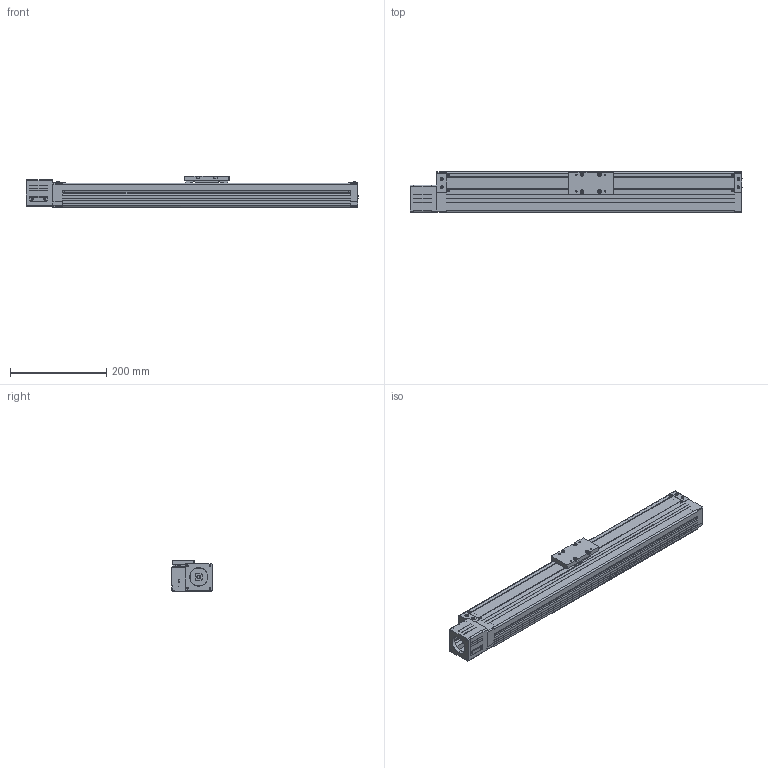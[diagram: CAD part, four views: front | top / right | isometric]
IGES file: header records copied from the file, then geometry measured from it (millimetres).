
Global section: file name: No Iges File Name specified; native system: AutoDesk Inventor R10; preprocessor: AutoDesk Inventor Iges Exporter R10; author: No Author specified; organization: No Organization specified; date: 20110701.172417; units: millimetre
Bounding box: 691 x 85 x 65 mm (x, y, z)
Surface area: 435697.8 mm2 (no closed solid volume)
Topology: 0 solids, 0 shells, 954 faces, 5926 edges, 5906 vertices
Faces by surface type: bspline 954
